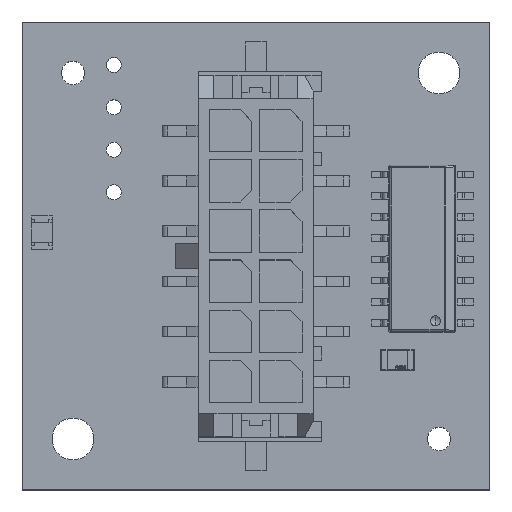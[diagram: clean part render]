
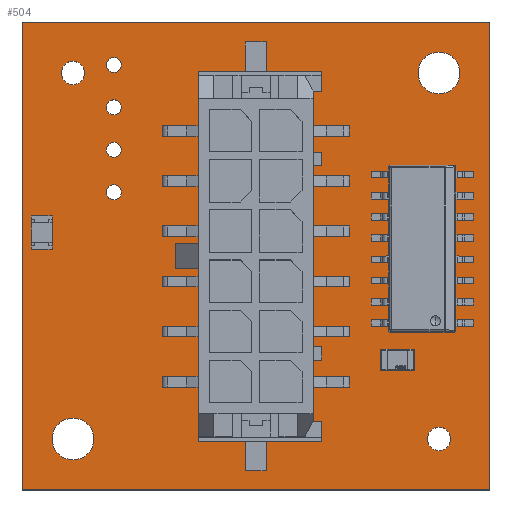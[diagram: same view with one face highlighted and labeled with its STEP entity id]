
A CAD part, top view. The second image highlights one B-rep face of the part: STEP entity #504.
In plain terms, the highlighted planar face has unit normal (0, 0, 1).
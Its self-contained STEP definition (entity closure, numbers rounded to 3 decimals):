
#87 = VERTEX_POINT('',#88);
#88 = CARTESIAN_POINT('',(-11.054,-1.478,0.));
#94 = EDGE_CURVE('',#87,#95,#97,.T.);
#95 = VERTEX_POINT('',#96);
#96 = CARTESIAN_POINT('',(16.946,-1.478,0.));
#97 = LINE('',#98,#99);
#98 = CARTESIAN_POINT('',(-11.054,-1.478,0.));
#99 = VECTOR('',#100,1.);
#100 = DIRECTION('',(1.,0.,0.));
#125 = EDGE_CURVE('',#95,#126,#128,.T.);
#126 = VERTEX_POINT('',#127);
#127 = CARTESIAN_POINT('',(16.946,26.522,0.));
#128 = LINE('',#129,#130);
#129 = CARTESIAN_POINT('',(16.946,-1.478,0.));
#130 = VECTOR('',#131,1.);
#131 = DIRECTION('',(0.,1.,0.));
#156 = EDGE_CURVE('',#126,#157,#159,.T.);
#157 = VERTEX_POINT('',#158);
#158 = CARTESIAN_POINT('',(-11.054,26.522,0.));
#159 = LINE('',#160,#161);
#160 = CARTESIAN_POINT('',(16.946,26.522,0.));
#161 = VECTOR('',#162,1.);
#162 = DIRECTION('',(-1.,0.,0.));
#187 = EDGE_CURVE('',#157,#87,#188,.T.);
#188 = LINE('',#189,#190);
#189 = CARTESIAN_POINT('',(-11.054,26.522,0.));
#190 = VECTOR('',#191,1.);
#191 = DIRECTION('',(0.,-1.,0.));
#211 = VERTEX_POINT('',#212);
#212 = CARTESIAN_POINT('',(-6.754,1.572,0.));
#218 = EDGE_CURVE('',#211,#211,#219,.T.);
#219 = CIRCLE('',#220,1.25);
#220 = AXIS2_PLACEMENT_3D('',#221,#222,#223);
#221 = CARTESIAN_POINT('',(-8.004,1.572,0.));
#222 = DIRECTION('',(0.,0.,1.));
#223 = DIRECTION('',(1.,0.,0.));
#244 = VERTEX_POINT('',#245);
#245 = CARTESIAN_POINT('',(-5.113,16.332,0.));
#251 = EDGE_CURVE('',#244,#244,#252,.T.);
#252 = CIRCLE('',#253,0.45);
#253 = AXIS2_PLACEMENT_3D('',#254,#255,#256);
#254 = CARTESIAN_POINT('',(-5.563,16.332,0.));
#255 = DIRECTION('',(0.,0.,1.));
#256 = DIRECTION('',(1.,0.,0.));
#277 = VERTEX_POINT('',#278);
#278 = CARTESIAN_POINT('',(-7.304,23.472,0.));
#284 = EDGE_CURVE('',#277,#277,#285,.T.);
#285 = CIRCLE('',#286,0.7);
#286 = AXIS2_PLACEMENT_3D('',#287,#288,#289);
#287 = CARTESIAN_POINT('',(-8.004,23.472,0.));
#288 = DIRECTION('',(0.,0.,1.));
#289 = DIRECTION('',(1.,0.,0.));
#310 = VERTEX_POINT('',#311);
#311 = CARTESIAN_POINT('',(-5.113,18.872,0.));
#317 = EDGE_CURVE('',#310,#310,#318,.T.);
#318 = CIRCLE('',#319,0.45);
#319 = AXIS2_PLACEMENT_3D('',#320,#321,#322);
#320 = CARTESIAN_POINT('',(-5.563,18.872,0.));
#321 = DIRECTION('',(0.,0.,1.));
#322 = DIRECTION('',(1.,0.,0.));
#343 = VERTEX_POINT('',#344);
#344 = CARTESIAN_POINT('',(-5.113,21.412,0.));
#350 = EDGE_CURVE('',#343,#343,#351,.T.);
#351 = CIRCLE('',#352,0.45);
#352 = AXIS2_PLACEMENT_3D('',#353,#354,#355);
#353 = CARTESIAN_POINT('',(-5.563,21.412,0.));
#354 = DIRECTION('',(0.,0.,1.));
#355 = DIRECTION('',(1.,0.,0.));
#376 = VERTEX_POINT('',#377);
#377 = CARTESIAN_POINT('',(14.596,1.572,0.));
#383 = EDGE_CURVE('',#376,#376,#384,.T.);
#384 = CIRCLE('',#385,0.7);
#385 = AXIS2_PLACEMENT_3D('',#386,#387,#388);
#386 = CARTESIAN_POINT('',(13.896,1.572,0.));
#387 = DIRECTION('',(0.,0.,1.));
#388 = DIRECTION('',(1.,0.,0.));
#409 = VERTEX_POINT('',#410);
#410 = CARTESIAN_POINT('',(-5.113,23.952,0.));
#416 = EDGE_CURVE('',#409,#409,#417,.T.);
#417 = CIRCLE('',#418,0.45);
#418 = AXIS2_PLACEMENT_3D('',#419,#420,#421);
#419 = CARTESIAN_POINT('',(-5.563,23.952,0.));
#420 = DIRECTION('',(0.,0.,1.));
#421 = DIRECTION('',(1.,0.,0.));
#442 = VERTEX_POINT('',#443);
#443 = CARTESIAN_POINT('',(15.146,23.472,0.));
#449 = EDGE_CURVE('',#442,#442,#450,.T.);
#450 = CIRCLE('',#451,1.25);
#451 = AXIS2_PLACEMENT_3D('',#452,#453,#454);
#452 = CARTESIAN_POINT('',(13.896,23.472,0.));
#453 = DIRECTION('',(0.,0.,1.));
#454 = DIRECTION('',(1.,0.,0.));
#504 = ADVANCED_FACE('',(#505,#511,#514,#517,#520,#523,#526,#529,#532),
  #535,.F.);
#505 = FACE_BOUND('',#506,.T.);
#506 = EDGE_LOOP('',(#507,#508,#509,#510));
#507 = ORIENTED_EDGE('',*,*,#94,.T.);
#508 = ORIENTED_EDGE('',*,*,#125,.T.);
#509 = ORIENTED_EDGE('',*,*,#156,.T.);
#510 = ORIENTED_EDGE('',*,*,#187,.T.);
#511 = FACE_BOUND('',#512,.F.);
#512 = EDGE_LOOP('',(#513));
#513 = ORIENTED_EDGE('',*,*,#218,.T.);
#514 = FACE_BOUND('',#515,.F.);
#515 = EDGE_LOOP('',(#516));
#516 = ORIENTED_EDGE('',*,*,#251,.T.);
#517 = FACE_BOUND('',#518,.F.);
#518 = EDGE_LOOP('',(#519));
#519 = ORIENTED_EDGE('',*,*,#284,.T.);
#520 = FACE_BOUND('',#521,.F.);
#521 = EDGE_LOOP('',(#522));
#522 = ORIENTED_EDGE('',*,*,#317,.T.);
#523 = FACE_BOUND('',#524,.F.);
#524 = EDGE_LOOP('',(#525));
#525 = ORIENTED_EDGE('',*,*,#350,.T.);
#526 = FACE_BOUND('',#527,.F.);
#527 = EDGE_LOOP('',(#528));
#528 = ORIENTED_EDGE('',*,*,#383,.T.);
#529 = FACE_BOUND('',#530,.F.);
#530 = EDGE_LOOP('',(#531));
#531 = ORIENTED_EDGE('',*,*,#416,.T.);
#532 = FACE_BOUND('',#533,.F.);
#533 = EDGE_LOOP('',(#534));
#534 = ORIENTED_EDGE('',*,*,#449,.T.);
#535 = PLANE('',#536);
#536 = AXIS2_PLACEMENT_3D('',#537,#538,#539);
#537 = CARTESIAN_POINT('',(-11.054,-1.478,0.));
#538 = DIRECTION('',(0.,0.,-1.));
#539 = DIRECTION('',(-1.,0.,0.));
